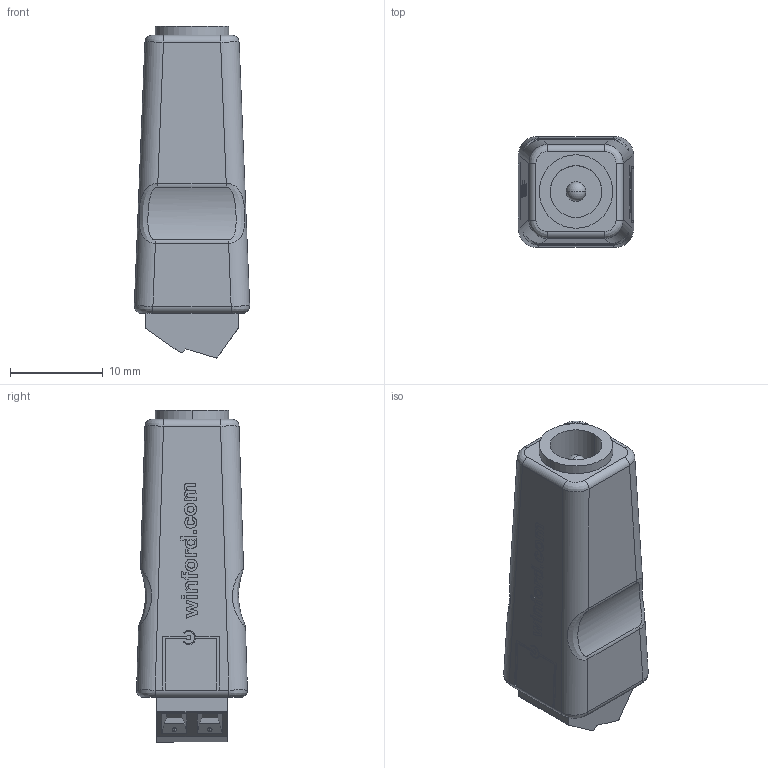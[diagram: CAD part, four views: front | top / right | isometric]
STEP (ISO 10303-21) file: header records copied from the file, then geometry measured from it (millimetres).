
FILE_DESCRIPTION (( 'STEP AP214' ), '1' );
FILE_NAME ('brkp05-dcja-a_rev_a.step', '2026-06-15T18:17:44', ( '' ), ( '' ), 'SwSTEP 2.0', 'SolidWorks 2018', '' );
FILE_SCHEMA (( 'AUTOMOTIVE_DESIGN' ));
Length unit declared in the file: inch
Products named in the file (1): brkp05-dcja-a_rev_a
Bounding box: 12.44 x 11.95 x 35.81 mm (x, y, z)
Volume: 3773.2 mm3; surface area: 2948.3 mm2
Topology: 4 solids, 4 shells, 552 faces, 1462 edges, 947 vertices
Faces by surface type: plane 383, cylinder 80, bspline 67, torus 8, cone 8, sphere 6
Entity records: 27841 total; most frequent: CARTESIAN_POINT 7235, ORIENTED_EDGE 2916, DIRECTION 2484, EDGE_CURVE 1458, LINE 1136, VECTOR 1136, VERTEX_POINT 945, AXIS2_PLACEMENT_3D 674
